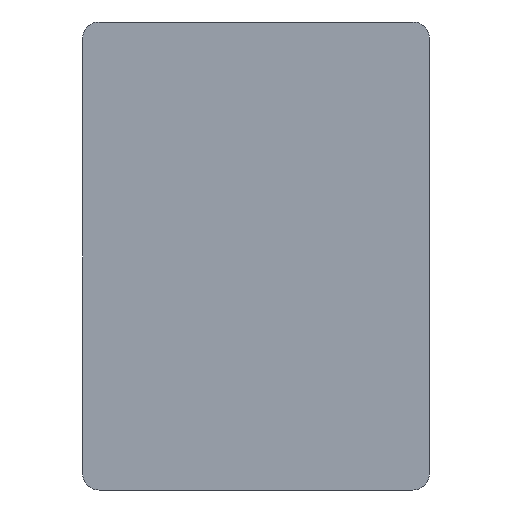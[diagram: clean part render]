
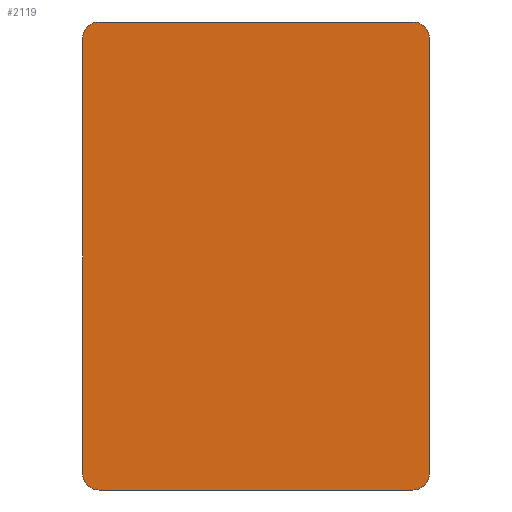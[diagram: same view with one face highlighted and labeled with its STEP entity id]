
A CAD part, front view. The second image highlights one B-rep face of the part: STEP entity #2119.
In plain terms, the highlighted planar face has unit normal (0, -1, 0).
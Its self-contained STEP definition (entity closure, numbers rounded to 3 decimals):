
#219=PLANE('',#2498);
#355=FACE_OUTER_BOUND('',#524,.T.);
#524=EDGE_LOOP('',(#1912,#1913,#1914,#1915,#1916,#1917,#1918,#1919));
#601=LINE('',#3868,#714);
#627=LINE('',#4007,#740);
#632=LINE('',#4020,#745);
#639=LINE('',#4051,#752);
#714=VECTOR('',#3079,10.);
#740=VECTOR('',#3169,10.);
#745=VECTOR('',#3180,10.);
#752=VECTOR('',#3221,10.);
#891=CIRCLE('',#2474,3.);
#893=CIRCLE('',#2478,3.);
#901=CIRCLE('',#2497,3.);
#902=CIRCLE('',#2499,3.);
#1035=VERTEX_POINT('',#3864);
#1037=VERTEX_POINT('',#3867);
#1067=VERTEX_POINT('',#3993);
#1069=VERTEX_POINT('',#4001);
#1070=VERTEX_POINT('',#4003);
#1073=VERTEX_POINT('',#4014);
#1075=VERTEX_POINT('',#4018);
#1082=VERTEX_POINT('',#4049);
#1294=EDGE_CURVE('',#1037,#1035,#601,.T.);
#1337=EDGE_CURVE('',#1037,#1067,#891,.T.);
#1342=EDGE_CURVE('',#1069,#1070,#893,.T.);
#1344=EDGE_CURVE('',#1069,#1067,#627,.T.);
#1350=EDGE_CURVE('',#1073,#1075,#632,.T.);
#1363=EDGE_CURVE('',#1073,#1035,#901,.T.);
#1364=EDGE_CURVE('',#1082,#1075,#902,.T.);
#1365=EDGE_CURVE('',#1082,#1070,#639,.T.);
#1912=ORIENTED_EDGE('',*,*,#1363,.F.);
#1913=ORIENTED_EDGE('',*,*,#1350,.T.);
#1914=ORIENTED_EDGE('',*,*,#1364,.F.);
#1915=ORIENTED_EDGE('',*,*,#1365,.T.);
#1916=ORIENTED_EDGE('',*,*,#1342,.F.);
#1917=ORIENTED_EDGE('',*,*,#1344,.T.);
#1918=ORIENTED_EDGE('',*,*,#1337,.F.);
#1919=ORIENTED_EDGE('',*,*,#1294,.T.);
#2119=ADVANCED_FACE('',(#355),#219,.F.);
#2474=AXIS2_PLACEMENT_3D('',#3994,#3153,#3154);
#2478=AXIS2_PLACEMENT_3D('',#4004,#3164,#3165);
#2497=AXIS2_PLACEMENT_3D('',#4047,#3215,#3216);
#2498=AXIS2_PLACEMENT_3D('',#4048,#3217,#3218);
#2499=AXIS2_PLACEMENT_3D('',#4050,#3219,#3220);
#3079=DIRECTION('',(-1.,0.,0.));
#3153=DIRECTION('center_axis',(0.,1.,0.));
#3154=DIRECTION('ref_axis',(0.707,0.,0.707));
#3164=DIRECTION('center_axis',(0.,1.,0.));
#3165=DIRECTION('ref_axis',(0.707,0.,-0.707));
#3169=DIRECTION('',(0.,0.,1.));
#3180=DIRECTION('',(0.,0.,-1.));
#3215=DIRECTION('center_axis',(0.,1.,0.));
#3216=DIRECTION('ref_axis',(-0.707,0.,0.707));
#3217=DIRECTION('center_axis',(0.,1.,0.));
#3218=DIRECTION('ref_axis',(1.,0.,0.));
#3219=DIRECTION('center_axis',(0.,1.,0.));
#3220=DIRECTION('ref_axis',(-0.707,0.,-0.707));
#3221=DIRECTION('',(1.,0.,0.));
#3864=CARTESIAN_POINT('',(3.,0.,85.));
#3867=CARTESIAN_POINT('',(60.,0.,85.));
#3868=CARTESIAN_POINT('',(63.,0.,85.));
#3993=CARTESIAN_POINT('',(63.,0.,82.));
#3994=CARTESIAN_POINT('Origin',(60.,0.,82.));
#4001=CARTESIAN_POINT('',(63.,0.,3.));
#4003=CARTESIAN_POINT('',(60.,0.,0.));
#4004=CARTESIAN_POINT('Origin',(60.,0.,3.));
#4007=CARTESIAN_POINT('',(63.,0.,0.));
#4014=CARTESIAN_POINT('',(0.,0.,82.));
#4018=CARTESIAN_POINT('',(0.,0.,3.));
#4020=CARTESIAN_POINT('',(0.,0.,85.));
#4047=CARTESIAN_POINT('Origin',(3.,0.,82.));
#4048=CARTESIAN_POINT('Origin',(31.5,0.,42.5));
#4049=CARTESIAN_POINT('',(3.,0.,0.));
#4050=CARTESIAN_POINT('Origin',(3.,0.,3.));
#4051=CARTESIAN_POINT('',(0.,0.,0.));
